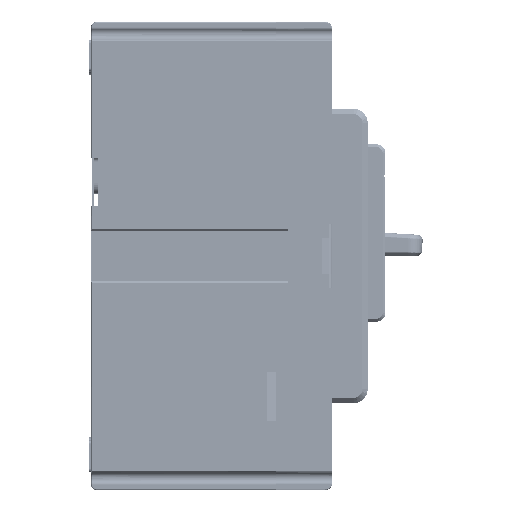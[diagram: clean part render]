
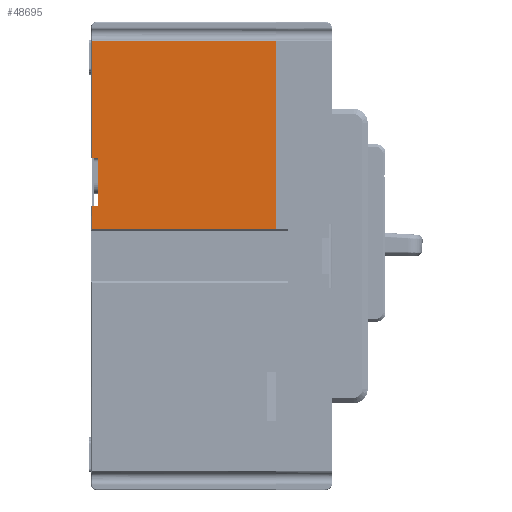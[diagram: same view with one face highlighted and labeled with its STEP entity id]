
A CAD part, left-side view. The second image highlights one B-rep face of the part: STEP entity #48695.
In plain terms, the highlighted planar face has unit normal (-1, 0, 0).
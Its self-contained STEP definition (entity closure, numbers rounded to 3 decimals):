
#3326=DIRECTION('',(0.,1.,0.));
#3327=VECTOR('',#3326,1.7);
#3328=CARTESIAN_POINT('',(-63.5,50.,14.));
#3329=LINE('',#3328,#3327);
#3340=DIRECTION('',(0.,0.,-1.));
#3341=VECTOR('',#3340,6.5);
#3342=CARTESIAN_POINT('',(-63.5,51.7,14.));
#3343=LINE('',#3342,#3341);
#3348=DIRECTION('',(0.,0.,-1.));
#3349=VECTOR('',#3348,53.072);
#3350=CARTESIAN_POINT('',(-63.5,0.,60.572));
#3351=LINE('',#3350,#3349);
#3352=DIRECTION('',(0.,1.,0.));
#3353=VECTOR('',#3352,51.7);
#3354=CARTESIAN_POINT('',(-63.5,0.,7.5));
#3355=LINE('',#3354,#3353);
#3356=DIRECTION('',(0.,0.,1.));
#3357=VECTOR('',#3356,13.6);
#3358=CARTESIAN_POINT('',(-63.5,50.,14.));
#3359=LINE('',#3358,#3357);
#3360=DIRECTION('',(0.,1.,0.));
#3361=VECTOR('',#3360,1.7);
#3362=CARTESIAN_POINT('',(-63.5,50.,27.6));
#3363=LINE('',#3362,#3361);
#3368=DIRECTION('',(0.,1.,0.));
#3369=VECTOR('',#3368,51.7);
#3370=CARTESIAN_POINT('',(-63.5,0.,60.572));
#3371=LINE('',#3370,#3369);
#3755=DIRECTION('',(0.,0.,-1.));
#3756=VECTOR('',#3755,32.972);
#3757=CARTESIAN_POINT('',(-63.5,51.7,60.572));
#3758=LINE('',#3757,#3756);
#35529=CARTESIAN_POINT('',(-63.5,0.,7.5));
#35530=VERTEX_POINT('',#35529);
#35531=CARTESIAN_POINT('',(-63.5,0.,60.572));
#35532=VERTEX_POINT('',#35531);
#37185=CARTESIAN_POINT('',(-63.5,51.7,60.572));
#37186=VERTEX_POINT('',#37185);
#37187=CARTESIAN_POINT('',(-63.5,51.7,7.5));
#37188=VERTEX_POINT('',#37187);
#37189=CARTESIAN_POINT('',(-63.5,51.7,14.));
#37190=VERTEX_POINT('',#37189);
#37191=CARTESIAN_POINT('',(-63.5,50.,14.));
#37192=VERTEX_POINT('',#37191);
#37193=CARTESIAN_POINT('',(-63.5,50.,27.6));
#37194=VERTEX_POINT('',#37193);
#37195=CARTESIAN_POINT('',(-63.5,51.7,27.6));
#37196=VERTEX_POINT('',#37195);
#48675=CARTESIAN_POINT('',(-63.5,0.,-66.));
#48676=DIRECTION('',(-1.,0.,0.));
#48677=DIRECTION('',(0.,0.,1.));
#48678=AXIS2_PLACEMENT_3D('',#48675,#48676,#48677);
#48679=PLANE('',#48678);
#48681=ORIENTED_EDGE('',*,*,#48680,.F.);
#48683=ORIENTED_EDGE('',*,*,#48682,.T.);
#48684=ORIENTED_EDGE('',*,*,#48665,.T.);
#48685=ORIENTED_EDGE('',*,*,#48654,.F.);
#48686=ORIENTED_EDGE('',*,*,#48640,.F.);
#48688=ORIENTED_EDGE('',*,*,#48687,.T.);
#48690=ORIENTED_EDGE('',*,*,#48689,.T.);
#48692=ORIENTED_EDGE('',*,*,#48691,.F.);
#48693=EDGE_LOOP('',(#48681,#48683,#48684,#48685,#48686,#48688,#48690,#48692));
#48694=FACE_OUTER_BOUND('',#48693,.F.);
#48695=ADVANCED_FACE('',(#48694),#48679,.T.);
#48640=EDGE_CURVE('',#37192,#37190,#3329,.T.);
#48654=EDGE_CURVE('',#37190,#37188,#3343,.T.);
#48665=EDGE_CURVE('',#35530,#37188,#3355,.T.);
#48680=EDGE_CURVE('',#35532,#37186,#3371,.T.);
#48682=EDGE_CURVE('',#35532,#35530,#3351,.T.);
#48687=EDGE_CURVE('',#37192,#37194,#3359,.T.);
#48689=EDGE_CURVE('',#37194,#37196,#3363,.T.);
#48691=EDGE_CURVE('',#37186,#37196,#3758,.T.);
